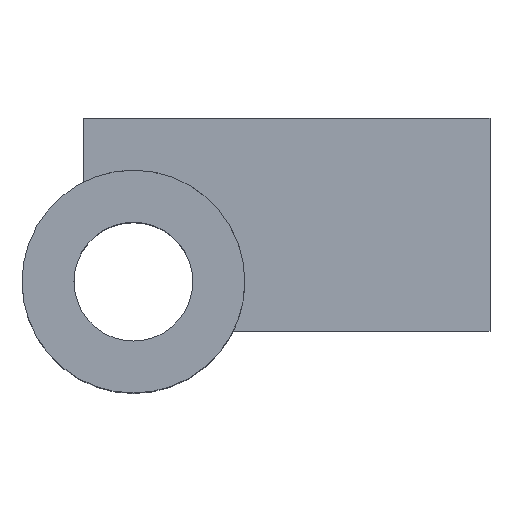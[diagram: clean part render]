
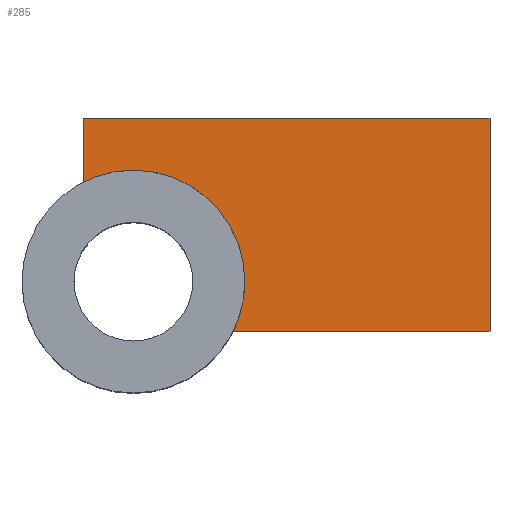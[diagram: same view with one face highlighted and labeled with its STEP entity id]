
A CAD part, top view. The second image highlights one B-rep face of the part: STEP entity #285.
In plain terms, the highlighted planar face has unit normal (0, 0, 1).
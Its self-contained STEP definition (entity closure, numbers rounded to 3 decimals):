
#22 = VERTEX_POINT('',#23);
#23 = CARTESIAN_POINT('',(-48.75,-26.,4.1));
#32 = CYLINDRICAL_SURFACE('',#33,2.25);
#33 = AXIS2_PLACEMENT_3D('',#34,#35,#36);
#34 = CARTESIAN_POINT('',(-51.,-26.,0.));
#35 = DIRECTION('',(0.,0.,1.));
#36 = DIRECTION('',(1.,0.,0.));
#79 = EDGE_CURVE('',#22,#80,#82,.T.);
#80 = VERTEX_POINT('',#81);
#81 = CARTESIAN_POINT('',(-52.,-23.984,4.1));
#82 = SURFACE_CURVE('',#83,(#88,#95),.PCURVE_S1.);
#83 = CIRCLE('',#84,2.25);
#84 = AXIS2_PLACEMENT_3D('',#85,#86,#87);
#85 = CARTESIAN_POINT('',(-51.,-26.,4.1));
#86 = DIRECTION('',(0.,0.,1.));
#87 = DIRECTION('',(1.,0.,-0.));
#88 = PCURVE('',#32,#89);
#89 = DEFINITIONAL_REPRESENTATION('',(#90),#94);
#90 = LINE('',#91,#92);
#91 = CARTESIAN_POINT('',(0.,4.1));
#92 = VECTOR('',#93,1.);
#93 = DIRECTION('',(1.,0.));
#94 = ( GEOMETRIC_REPRESENTATION_CONTEXT(2) 
PARAMETRIC_REPRESENTATION_CONTEXT() REPRESENTATION_CONTEXT('2D SPACE',''
  ) );
#95 = PCURVE('',#96,#101);
#96 = PLANE('',#97);
#97 = AXIS2_PLACEMENT_3D('',#98,#99,#100);
#98 = CARTESIAN_POINT('',(-52.,-27.,4.1));
#99 = DIRECTION('',(0.,0.,1.));
#100 = DIRECTION('',(1.,0.,0.));
#101 = DEFINITIONAL_REPRESENTATION('',(#102),#106);
#102 = CIRCLE('',#103,2.25);
#103 = AXIS2_PLACEMENT_2D('',#104,#105);
#104 = CARTESIAN_POINT('',(1.,1.));
#105 = DIRECTION('',(1.,0.));
#106 = ( GEOMETRIC_REPRESENTATION_CONTEXT(2) 
PARAMETRIC_REPRESENTATION_CONTEXT() REPRESENTATION_CONTEXT('2D SPACE',''
  ) );
#123 = PLANE('',#124);
#124 = AXIS2_PLACEMENT_3D('',#125,#126,#127);
#125 = CARTESIAN_POINT('',(-52.,-27.,3.4));
#126 = DIRECTION('',(1.,0.,0.));
#127 = DIRECTION('',(0.,0.,1.));
#239 = VERTEX_POINT('',#240);
#240 = CARTESIAN_POINT('',(-48.984,-27.,4.1));
#253 = PLANE('',#254);
#254 = AXIS2_PLACEMENT_3D('',#255,#256,#257);
#255 = CARTESIAN_POINT('',(-52.,-27.,3.4));
#256 = DIRECTION('',(0.,1.,0.));
#257 = DIRECTION('',(0.,0.,1.));
#264 = EDGE_CURVE('',#239,#22,#265,.T.);
#265 = SURFACE_CURVE('',#266,(#271,#278),.PCURVE_S1.);
#266 = CIRCLE('',#267,2.25);
#267 = AXIS2_PLACEMENT_3D('',#268,#269,#270);
#268 = CARTESIAN_POINT('',(-51.,-26.,4.1));
#269 = DIRECTION('',(0.,0.,1.));
#270 = DIRECTION('',(1.,0.,-0.));
#271 = PCURVE('',#32,#272);
#272 = DEFINITIONAL_REPRESENTATION('',(#273),#277);
#273 = LINE('',#274,#275);
#274 = CARTESIAN_POINT('',(0.,4.1));
#275 = VECTOR('',#276,1.);
#276 = DIRECTION('',(1.,0.));
#277 = ( GEOMETRIC_REPRESENTATION_CONTEXT(2) 
PARAMETRIC_REPRESENTATION_CONTEXT() REPRESENTATION_CONTEXT('2D SPACE',''
  ) );
#278 = PCURVE('',#96,#279);
#279 = DEFINITIONAL_REPRESENTATION('',(#280),#284);
#280 = CIRCLE('',#281,2.25);
#281 = AXIS2_PLACEMENT_2D('',#282,#283);
#282 = CARTESIAN_POINT('',(1.,1.));
#283 = DIRECTION('',(1.,0.));
#284 = ( GEOMETRIC_REPRESENTATION_CONTEXT(2) 
PARAMETRIC_REPRESENTATION_CONTEXT() REPRESENTATION_CONTEXT('2D SPACE',''
  ) );
#285 = ADVANCED_FACE('',(#286),#96,.T.);
#286 = FACE_BOUND('',#287,.T.);
#287 = EDGE_LOOP('',(#288,#311,#312,#313,#336,#364));
#288 = ORIENTED_EDGE('',*,*,#289,.F.);
#289 = EDGE_CURVE('',#80,#290,#292,.T.);
#290 = VERTEX_POINT('',#291);
#291 = CARTESIAN_POINT('',(-52.,-22.7,4.1));
#292 = SURFACE_CURVE('',#293,(#297,#304),.PCURVE_S1.);
#293 = LINE('',#294,#295);
#294 = CARTESIAN_POINT('',(-52.,-27.,4.1));
#295 = VECTOR('',#296,1.);
#296 = DIRECTION('',(0.,1.,0.));
#297 = PCURVE('',#96,#298);
#298 = DEFINITIONAL_REPRESENTATION('',(#299),#303);
#299 = LINE('',#300,#301);
#300 = CARTESIAN_POINT('',(0.,0.));
#301 = VECTOR('',#302,1.);
#302 = DIRECTION('',(0.,1.));
#303 = ( GEOMETRIC_REPRESENTATION_CONTEXT(2) 
PARAMETRIC_REPRESENTATION_CONTEXT() REPRESENTATION_CONTEXT('2D SPACE',''
  ) );
#304 = PCURVE('',#123,#305);
#305 = DEFINITIONAL_REPRESENTATION('',(#306),#310);
#306 = LINE('',#307,#308);
#307 = CARTESIAN_POINT('',(0.7,0.));
#308 = VECTOR('',#309,1.);
#309 = DIRECTION('',(0.,-1.));
#310 = ( GEOMETRIC_REPRESENTATION_CONTEXT(2) 
PARAMETRIC_REPRESENTATION_CONTEXT() REPRESENTATION_CONTEXT('2D SPACE',''
  ) );
#311 = ORIENTED_EDGE('',*,*,#79,.F.);
#312 = ORIENTED_EDGE('',*,*,#264,.F.);
#313 = ORIENTED_EDGE('',*,*,#314,.T.);
#314 = EDGE_CURVE('',#239,#315,#317,.T.);
#315 = VERTEX_POINT('',#316);
#316 = CARTESIAN_POINT('',(-43.8,-27.,4.1));
#317 = SURFACE_CURVE('',#318,(#322,#329),.PCURVE_S1.);
#318 = LINE('',#319,#320);
#319 = CARTESIAN_POINT('',(-52.,-27.,4.1));
#320 = VECTOR('',#321,1.);
#321 = DIRECTION('',(1.,0.,0.));
#322 = PCURVE('',#96,#323);
#323 = DEFINITIONAL_REPRESENTATION('',(#324),#328);
#324 = LINE('',#325,#326);
#325 = CARTESIAN_POINT('',(0.,0.));
#326 = VECTOR('',#327,1.);
#327 = DIRECTION('',(1.,0.));
#328 = ( GEOMETRIC_REPRESENTATION_CONTEXT(2) 
PARAMETRIC_REPRESENTATION_CONTEXT() REPRESENTATION_CONTEXT('2D SPACE',''
  ) );
#329 = PCURVE('',#253,#330);
#330 = DEFINITIONAL_REPRESENTATION('',(#331),#335);
#331 = LINE('',#332,#333);
#332 = CARTESIAN_POINT('',(0.7,0.));
#333 = VECTOR('',#334,1.);
#334 = DIRECTION('',(0.,1.));
#335 = ( GEOMETRIC_REPRESENTATION_CONTEXT(2) 
PARAMETRIC_REPRESENTATION_CONTEXT() REPRESENTATION_CONTEXT('2D SPACE',''
  ) );
#336 = ORIENTED_EDGE('',*,*,#337,.T.);
#337 = EDGE_CURVE('',#315,#338,#340,.T.);
#338 = VERTEX_POINT('',#339);
#339 = CARTESIAN_POINT('',(-43.8,-22.7,4.1));
#340 = SURFACE_CURVE('',#341,(#345,#352),.PCURVE_S1.);
#341 = LINE('',#342,#343);
#342 = CARTESIAN_POINT('',(-43.8,-27.,4.1));
#343 = VECTOR('',#344,1.);
#344 = DIRECTION('',(0.,1.,0.));
#345 = PCURVE('',#96,#346);
#346 = DEFINITIONAL_REPRESENTATION('',(#347),#351);
#347 = LINE('',#348,#349);
#348 = CARTESIAN_POINT('',(8.2,0.));
#349 = VECTOR('',#350,1.);
#350 = DIRECTION('',(0.,1.));
#351 = ( GEOMETRIC_REPRESENTATION_CONTEXT(2) 
PARAMETRIC_REPRESENTATION_CONTEXT() REPRESENTATION_CONTEXT('2D SPACE',''
  ) );
#352 = PCURVE('',#353,#358);
#353 = PLANE('',#354);
#354 = AXIS2_PLACEMENT_3D('',#355,#356,#357);
#355 = CARTESIAN_POINT('',(-43.8,-27.,3.4));
#356 = DIRECTION('',(1.,0.,0.));
#357 = DIRECTION('',(0.,0.,1.));
#358 = DEFINITIONAL_REPRESENTATION('',(#359),#363);
#359 = LINE('',#360,#361);
#360 = CARTESIAN_POINT('',(0.7,0.));
#361 = VECTOR('',#362,1.);
#362 = DIRECTION('',(0.,-1.));
#363 = ( GEOMETRIC_REPRESENTATION_CONTEXT(2) 
PARAMETRIC_REPRESENTATION_CONTEXT() REPRESENTATION_CONTEXT('2D SPACE',''
  ) );
#364 = ORIENTED_EDGE('',*,*,#365,.F.);
#365 = EDGE_CURVE('',#290,#338,#366,.T.);
#366 = SURFACE_CURVE('',#367,(#371,#378),.PCURVE_S1.);
#367 = LINE('',#368,#369);
#368 = CARTESIAN_POINT('',(-52.,-22.7,4.1));
#369 = VECTOR('',#370,1.);
#370 = DIRECTION('',(1.,0.,0.));
#371 = PCURVE('',#96,#372);
#372 = DEFINITIONAL_REPRESENTATION('',(#373),#377);
#373 = LINE('',#374,#375);
#374 = CARTESIAN_POINT('',(0.,4.3));
#375 = VECTOR('',#376,1.);
#376 = DIRECTION('',(1.,0.));
#377 = ( GEOMETRIC_REPRESENTATION_CONTEXT(2) 
PARAMETRIC_REPRESENTATION_CONTEXT() REPRESENTATION_CONTEXT('2D SPACE',''
  ) );
#378 = PCURVE('',#379,#384);
#379 = PLANE('',#380);
#380 = AXIS2_PLACEMENT_3D('',#381,#382,#383);
#381 = CARTESIAN_POINT('',(-52.,-22.7,3.4));
#382 = DIRECTION('',(0.,1.,0.));
#383 = DIRECTION('',(0.,0.,1.));
#384 = DEFINITIONAL_REPRESENTATION('',(#385),#389);
#385 = LINE('',#386,#387);
#386 = CARTESIAN_POINT('',(0.7,0.));
#387 = VECTOR('',#388,1.);
#388 = DIRECTION('',(0.,1.));
#389 = ( GEOMETRIC_REPRESENTATION_CONTEXT(2) 
PARAMETRIC_REPRESENTATION_CONTEXT() REPRESENTATION_CONTEXT('2D SPACE',''
  ) );
